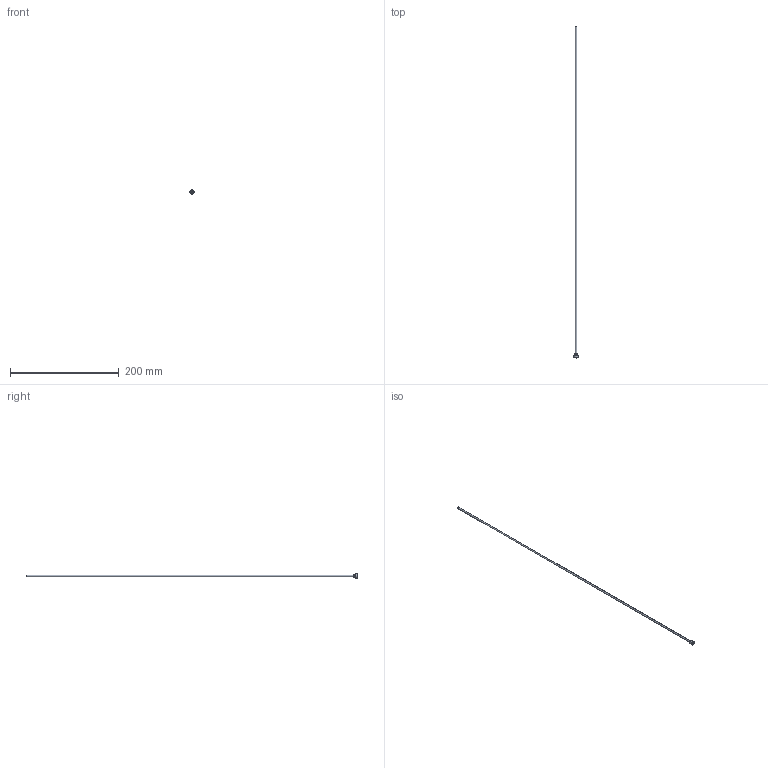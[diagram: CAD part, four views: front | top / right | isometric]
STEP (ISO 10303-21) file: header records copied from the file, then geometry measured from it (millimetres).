
FILE_DESCRIPTION(/* description */ (''),/* implementation_level */ '2;1');
FILE_NAME(/* name */ 'C:/Users/drich/Desktop/PT16-125-24 v1.step',/* time_stamp */ '2019-12-27T15:19:01-06:00',/* author */ (''),/* organization */ (''),/* preprocessor_version */ 'ST-DEVELOPER v18',/* originating_system */ 'Autodesk Translation Framework v8.12.0.6',/* authorisation */ '');
FILE_SCHEMA (('AUTOMOTIVE_DESIGN { 1 0 10303 214 3 1 1 }'));
Length unit declared in the file: inch
Products named in the file (1): PT16-125-24
Bounding box: 7.62 x 609.6 x 7.62 mm (x, y, z)
Volume: 1362.7 mm3; surface area: 11552.5 mm2
Topology: 1 solids, 1 shells, 19 faces, 48 edges, 34 vertices
Faces by surface type: plane 11, cylinder 4, torus 2, cone 2
Full cylindrical faces by diameter (mm): 2.769 x1, 3.175 x1, 4.724 x1, 7.616 x1
Entity records: 633 total; most frequent: DIRECTION 112, CARTESIAN_POINT 102, ORIENTED_EDGE 96, EDGE_CURVE 48, AXIS2_PLACEMENT_3D 44, VERTEX_POINT 34, CIRCLE 24, EDGE_LOOP 24
